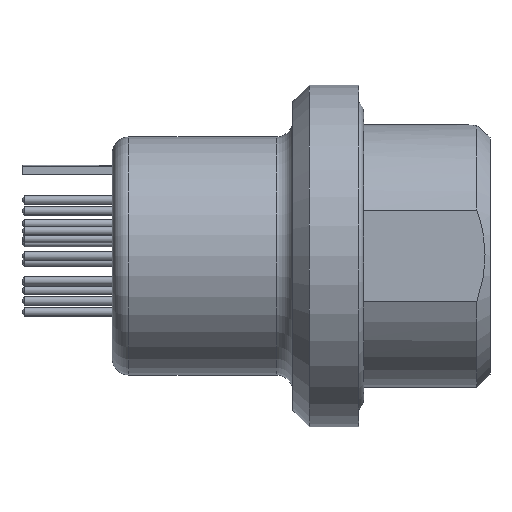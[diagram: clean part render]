
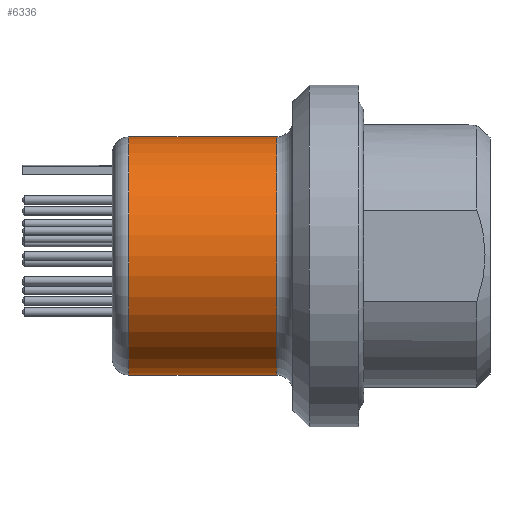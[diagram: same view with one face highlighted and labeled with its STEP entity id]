
A CAD part, top view. The second image highlights one B-rep face of the part: STEP entity #6336.
In plain terms, the highlighted cylindrical face has radius 7.25 mm (diameter 14.5 mm), a partial arc.
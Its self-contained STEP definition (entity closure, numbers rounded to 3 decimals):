
#422=CARTESIAN_POINT('',(-5.,0.,0.));
#423=DIRECTION('',(-1.,0.,0.));
#424=DIRECTION('',(0.,-1.,0.));
#425=AXIS2_PLACEMENT_3D('',#422,#423,#424);
#427=DIRECTION('',(-1.,0.,0.));
#428=VECTOR('',#427,9.);
#429=CARTESIAN_POINT('',(-5.,-7.25,0.));
#430=LINE('',#429,#428);
#431=DIRECTION('',(-1.,0.,0.));
#432=VECTOR('',#431,9.);
#433=CARTESIAN_POINT('',(-5.,7.25,0.));
#434=LINE('',#433,#432);
#445=CARTESIAN_POINT('',(-14.,0.,0.));
#446=DIRECTION('',(1.,0.,0.));
#447=DIRECTION('',(0.,1.,0.));
#448=AXIS2_PLACEMENT_3D('',#445,#446,#447);
#4922=CARTESIAN_POINT('',(-5.,7.25,0.));
#4923=VERTEX_POINT('',#4922);
#4924=CARTESIAN_POINT('',(-5.,-7.25,0.));
#4925=VERTEX_POINT('',#4924);
#4926=CARTESIAN_POINT('',(-14.,7.25,0.));
#4927=VERTEX_POINT('',#4926);
#4928=CARTESIAN_POINT('',(-14.,-7.25,0.));
#4929=VERTEX_POINT('',#4928);
#6322=CARTESIAN_POINT('',(9.15,0.,0.));
#6323=DIRECTION('',(-1.,0.,0.));
#6324=DIRECTION('',(0.,-1.,0.));
#6325=AXIS2_PLACEMENT_3D('',#6322,#6323,#6324);
#6326=CYLINDRICAL_SURFACE('',#6325,7.25);
#6328=ORIENTED_EDGE('',*,*,#6327,.F.);
#6329=ORIENTED_EDGE('',*,*,#6310,.F.);
#6331=ORIENTED_EDGE('',*,*,#6330,.T.);
#6333=ORIENTED_EDGE('',*,*,#6332,.F.);
#6334=EDGE_LOOP('',(#6328,#6329,#6331,#6333));
#6335=FACE_OUTER_BOUND('',#6334,.F.);
#426=CIRCLE('',#425,7.25);
#449=CIRCLE('',#448,7.25);
#6310=EDGE_CURVE('',#4925,#4923,#426,.T.);
#6327=EDGE_CURVE('',#4923,#4927,#434,.T.);
#6330=EDGE_CURVE('',#4925,#4929,#430,.T.);
#6332=EDGE_CURVE('',#4927,#4929,#449,.T.);
#6336=ADVANCED_FACE('',(#6335),#6326,.T.);
